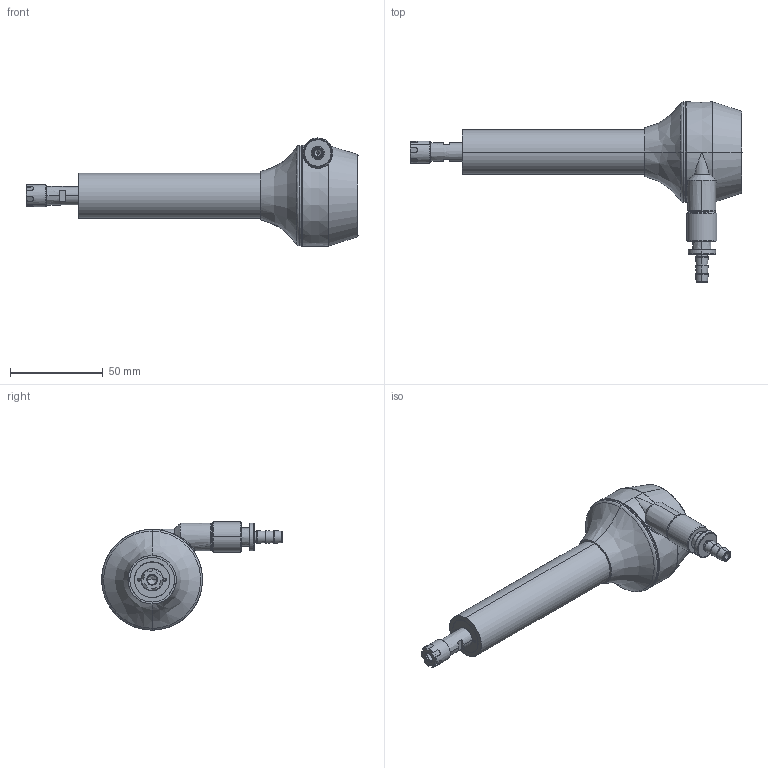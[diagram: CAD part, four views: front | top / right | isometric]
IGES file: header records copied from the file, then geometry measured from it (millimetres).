
Start section: SolidWorks IGES file using analytic representation for surfaces
Global section: file name: R:\Inventor\Kundmodeller\Solidworks kundmodeller\BE11\BE11.IGS; native system: SolidWorks 2008; preprocessor: SolidWorks 2008; author: Johan; date: 090706.162444; units: millimetre
Bounding box: 178.6 x 97.1 x 58.2 mm (x, y, z)
Surface area: 50583.2 mm2 (no closed solid volume)
Topology: 0 solids, 0 shells, 380 faces, 7547 edges, 7537 vertices
Faces by surface type: revolution 260, bspline 120
